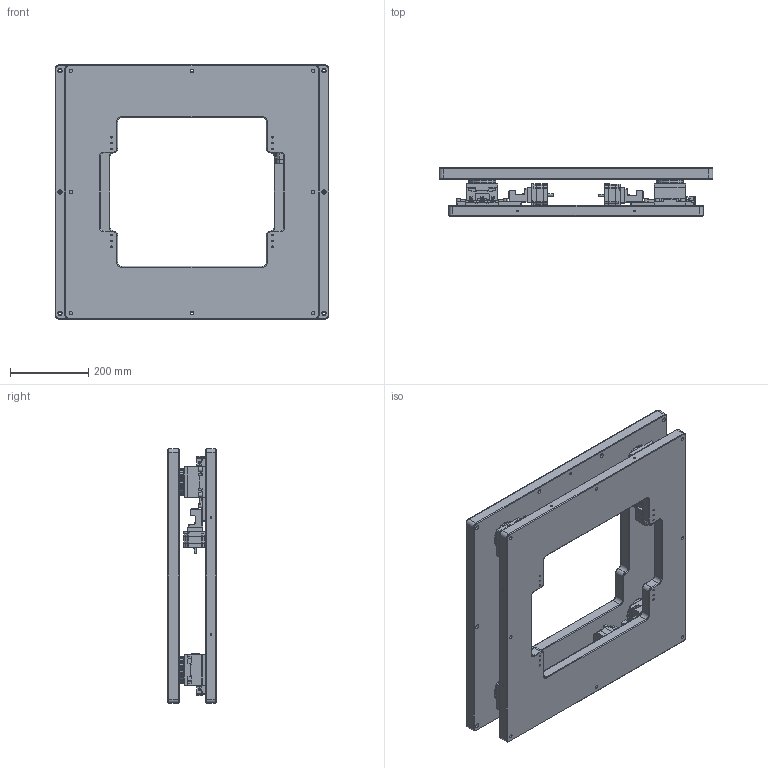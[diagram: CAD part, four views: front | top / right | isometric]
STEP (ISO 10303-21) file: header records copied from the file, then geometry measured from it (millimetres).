
FILE_DESCRIPTION (( 'STEP AP203' ), '1' );
FILE_NAME ('A1843-DAS02-6570CS-19043.STEP', '2020-01-15T01:44:00', ( '' ), ( '' ), 'SwSTEP 2.0', 'SolidWorks 2019', '' );
FILE_SCHEMA (( 'CONFIG_CONTROL_DESIGN' ));
Products named in the file (1): A1843-DAS02-6570CS-19043
Bounding box: 700 x 123 x 650 mm (x, y, z)
Volume: 17835489.3 mm3; surface area: 1689837.6 mm2
Topology: 2 solids, 2 shells, 4274 faces, 11415 edges, 7369 vertices
Faces by surface type: plane 2826, cylinder 730, bspline 466, torus 190, cone 62
Entity records: 151896 total; most frequent: CARTESIAN_POINT 47544, ORIENTED_EDGE 22762, DIRECTION 19555, EDGE_CURVE 11381, LINE 8499, VECTOR 8499, VERTEX_POINT 7369, AXIS2_PLACEMENT_3D 5528
